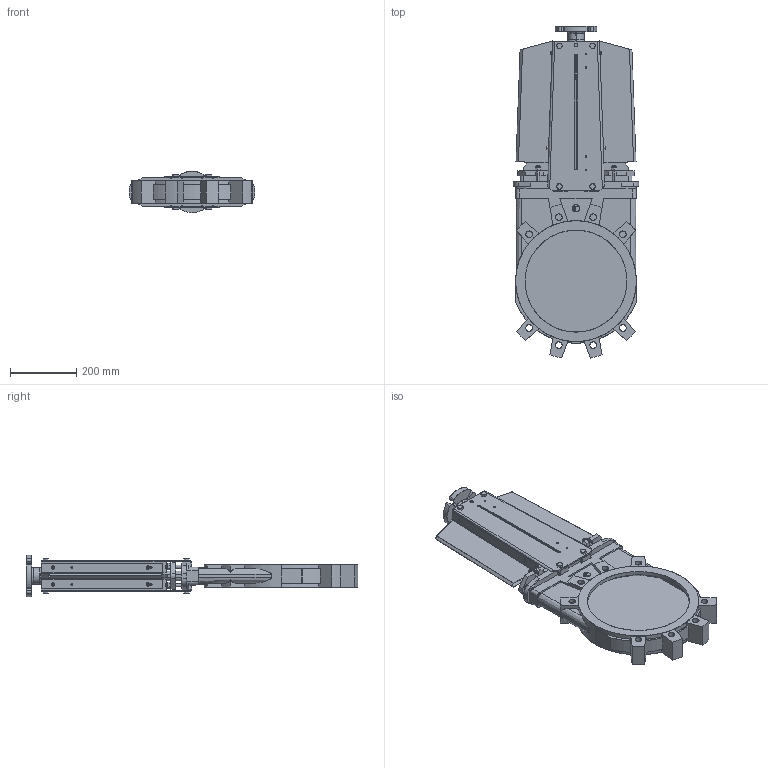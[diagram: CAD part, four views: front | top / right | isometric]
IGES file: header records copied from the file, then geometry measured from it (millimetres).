
Start section: SolidWorks IGES file using analytic representation for surfaces
Global section: file name: D:\part\3D Projects\VG-ELECTRICAL MOTOR(DN50-600)\AUMA\VG E A DN300\VG E A DN300.IGS; native system: SolidWorks 2009; preprocessor: SolidWorks 2009; author: zhixin.zheng; date: 100331.141112; units: millimetre
Bounding box: 380 x 1002.55 x 125 mm (x, y, z)
Surface area: 1461445 mm2 (no closed solid volume)
Topology: 0 solids, 0 shells, 975 faces, 10025 edges, 10025 vertices
Faces by surface type: bspline 624, revolution 351
